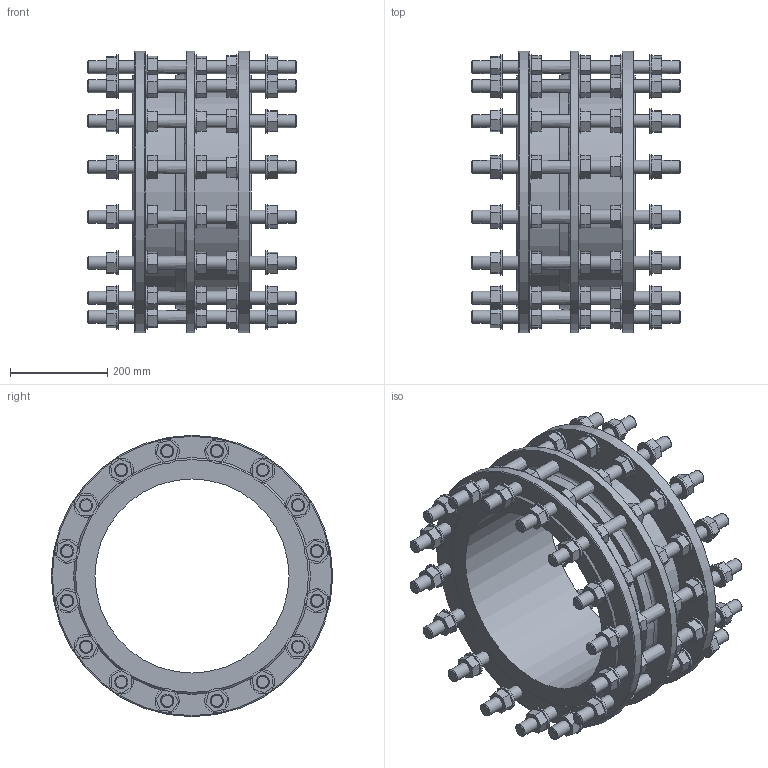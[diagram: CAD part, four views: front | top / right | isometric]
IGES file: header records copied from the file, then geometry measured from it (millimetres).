
Start section: SolidWorks IGES file using analytic representation for surfaces
Global section: file name: \\avksan2\techshare\PBM outline export from Enovia\O_265_910_DN400_1XXXXX00_L=245_REV01.igs; native system: SolidWorks 2022; preprocessor: SolidWorks 2022; author: pbm; date: 241011.111754; units: millimetre
Bounding box: 430 x 580 x 580 mm (x, y, z)
Surface area: 2057764.7 mm2 (no closed solid volume)
Topology: 0 solids, 0 shells, 974 faces, 4323 edges, 4103 vertices
Faces by surface type: bspline 752, revolution 222
